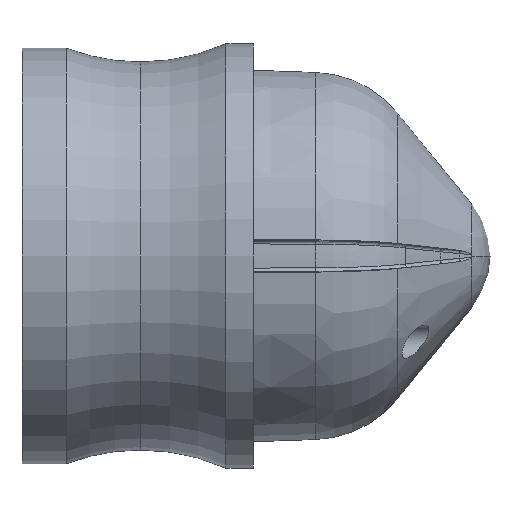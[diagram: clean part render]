
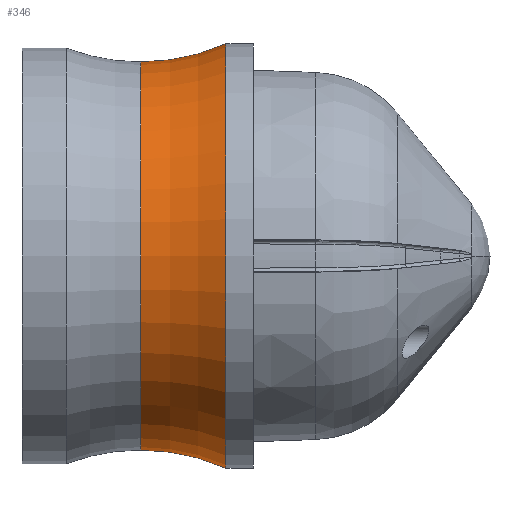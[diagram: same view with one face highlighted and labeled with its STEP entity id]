
A CAD part, left-side view. The second image highlights one B-rep face of the part: STEP entity #346.
In plain terms, the highlighted toroidal (fillet/blend) face has major radius 9.298 mm and minor radius 4.826 mm.
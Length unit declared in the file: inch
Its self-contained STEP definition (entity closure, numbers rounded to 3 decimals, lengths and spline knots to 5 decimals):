
#38 = ORIENTED_EDGE ( 'NONE', *, *, #10933, .T. ) ;
#346 = ADVANCED_FACE ( 'NONE', ( #8246 ), #2559, .F. ) ;
#1054 = VERTEX_POINT ( 'NONE', #1907 ) ;
#1458 = EDGE_CURVE ( 'NONE', #1054, #2958, #9355, .T. ) ;
#1732 = CARTESIAN_POINT ( 'NONE',  ( 0., 0.057, 0.1925 ) ) ;
#1870 = DIRECTION ( 'NONE',  ( 0., 1., 0. ) ) ;
#1902 = CARTESIAN_POINT ( 'NONE',  ( 0., 0.13434, 0.36605 ) ) ;
#1907 = CARTESIAN_POINT ( 'NONE',  ( 0., 0.13434, -0.17605 ) ) ;
#2064 = CIRCLE ( 'NONE', #9387, 0.19 ) ;
#2194 = VERTEX_POINT ( 'NONE', #2335 ) ;
#2255 = DIRECTION ( 'NONE',  ( 0., 0., -1. ) ) ;
#2314 = DIRECTION ( 'NONE',  ( 0., 0., 1. ) ) ;
#2335 = CARTESIAN_POINT ( 'NONE',  ( 0., 0.13434, 0.17605 ) ) ;
#2408 = CARTESIAN_POINT ( 'NONE',  ( 0., 0.13434, 0. ) ) ;
#2559 = TOROIDAL_SURFACE ( 'NONE', #8985, 0.36605, 0.19 ) ;
#2958 = VERTEX_POINT ( 'NONE', #8010 ) ;
#3021 = ORIENTED_EDGE ( 'NONE', *, *, #1458, .T. ) ;
#3291 = EDGE_LOOP ( 'NONE', ( #5000, #3021, #38, #3460 ) ) ;
#3460 = ORIENTED_EDGE ( 'NONE', *, *, #3733, .F. ) ;
#3733 = EDGE_CURVE ( 'NONE', #2194, #5729, #2064, .T. ) ;
#3858 = CIRCLE ( 'NONE', #5819, 0.17605 ) ;
#4433 = EDGE_CURVE ( 'NONE', #1054, #2194, #3858, .T. ) ;
#4890 = CARTESIAN_POINT ( 'NONE',  ( 0., 0.13434, 0. ) ) ;
#5000 = ORIENTED_EDGE ( 'NONE', *, *, #4433, .F. ) ;
#5389 = CARTESIAN_POINT ( 'NONE',  ( 0., 0.057, 0. ) ) ;
#5410 = DIRECTION ( 'NONE',  ( 1., 0., 0. ) ) ;
#5536 = AXIS2_PLACEMENT_3D ( 'NONE', #5389, #1870, #8691 ) ;
#5652 = DIRECTION ( 'NONE',  ( 0., 1., 0. ) ) ;
#5729 = VERTEX_POINT ( 'NONE', #1732 ) ;
#5819 = AXIS2_PLACEMENT_3D ( 'NONE', #2408, #5652, #10900 ) ;
#6884 = DIRECTION ( 'NONE',  ( -1., 0., 0. ) ) ;
#7578 = DIRECTION ( 'NONE',  ( 0., 1., 0. ) ) ;
#8010 = CARTESIAN_POINT ( 'NONE',  ( 0., 0.057, -0.1925 ) ) ;
#8246 = FACE_OUTER_BOUND ( 'NONE', #3291, .T. ) ;
#8691 = DIRECTION ( 'NONE',  ( 0., 0., 1. ) ) ;
#8985 = AXIS2_PLACEMENT_3D ( 'NONE', #4890, #7578, #2314 ) ;
#9355 = CIRCLE ( 'NONE', #9877, 0.19 ) ;
#9387 = AXIS2_PLACEMENT_3D ( 'NONE', #1902, #6884, #10902 ) ;
#9877 = AXIS2_PLACEMENT_3D ( 'NONE', #10805, #5410, #2255 ) ;
#10703 = CIRCLE ( 'NONE', #5536, 0.1925 ) ;
#10805 = CARTESIAN_POINT ( 'NONE',  ( 0., 0.13434, -0.36605 ) ) ;
#10900 = DIRECTION ( 'NONE',  ( 0., 0., 1. ) ) ;
#10902 = DIRECTION ( 'NONE',  ( 0., 0., 1. ) ) ;
#10933 = EDGE_CURVE ( 'NONE', #2958, #5729, #10703, .T. ) ;
